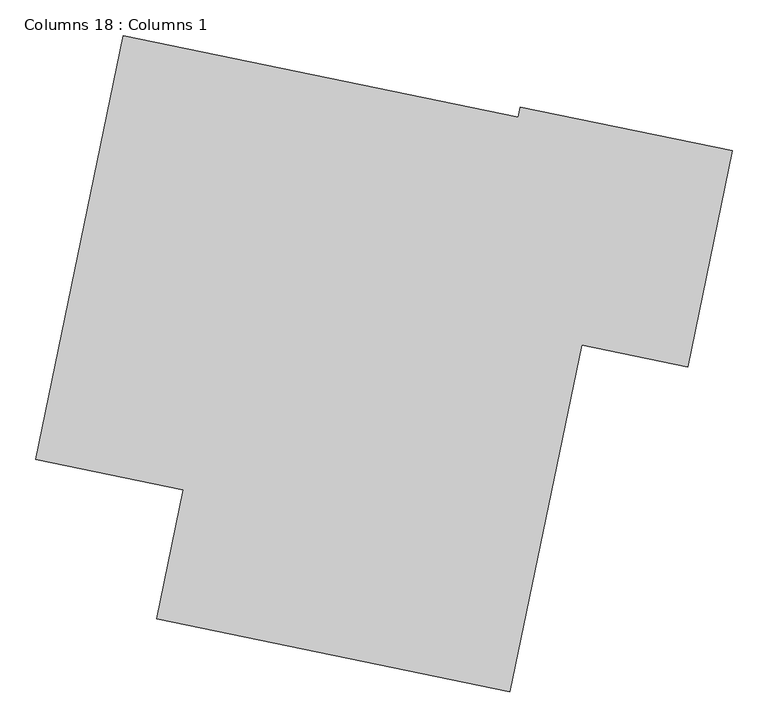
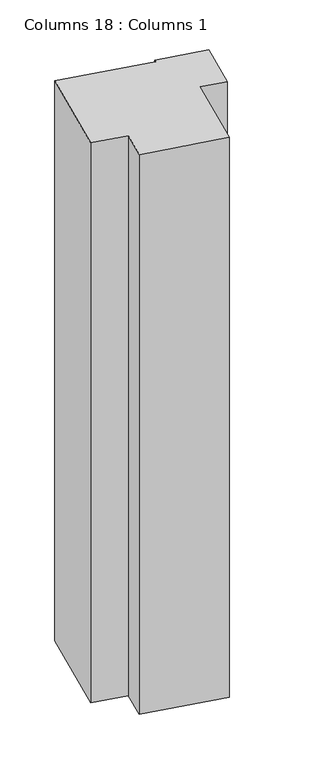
"""IFC4 building model written with IfcOpenShell, lengths in millimetres: column geometry, Columns 18 : Columns 1."""

from ifc_helpers import new_model, si_unit, origin, origin_with_axes, place, context, project, spatial, polyline, outline, extrude, source, transform, mapped, element, save


def columns_18_columns_1_02ec0be3(model_context):
    return source(origin(), model_context, "Body", "SweptSolid", [
        extrude(outline(polyline([(22423.7513064, 111068.9322351), (22216.0178222, 111111.82657), (22339.2919166, 111708.8321459), (22895.1132313, 111594.0620802), (22898.0314022, 111608.1945248), (23196.5341901, 111546.5574776), (23133.6953695, 111242.2346068), (22984.3480228, 111273.0696766), (22883.5199522, 110784.7682158), (22386.2760334, 110887.4427908), (22423.7513064, 111068.9322351)])), origin_with_axes(), (0.0, 0.0, 1.0), 3657.6),
    ])


if __name__ == "__main__":
    model = new_model("IFC4")
    model_context = context("Model", 3, world=origin())
    ifc_project = project(units=[si_unit("LENGTHUNIT", "METRE", prefix="MILLI")], contexts=[model_context])
    site = spatial("IfcSite", under=ifc_project)
    building = spatial("IfcBuilding", under=site)
    placement = place(None, origin())
    columns_18_columns_1_shape = columns_18_columns_1_02ec0be3(model_context)
    element("IfcColumn", 1, ObjectType="Columns 18 : Columns 1", at=placement, inside=building, context=model_context, shape_type="MappedRepresentation", body=[
        mapped(columns_18_columns_1_shape, transform((0.0, 0.0, 0.0), x_axis=(1.0, 0.0, 0.0), y_axis=(0.0, 1.0, 0.0), z_axis=(0.0, 0.0, 1.0))),
    ])
    save(model, "model.ifc")
